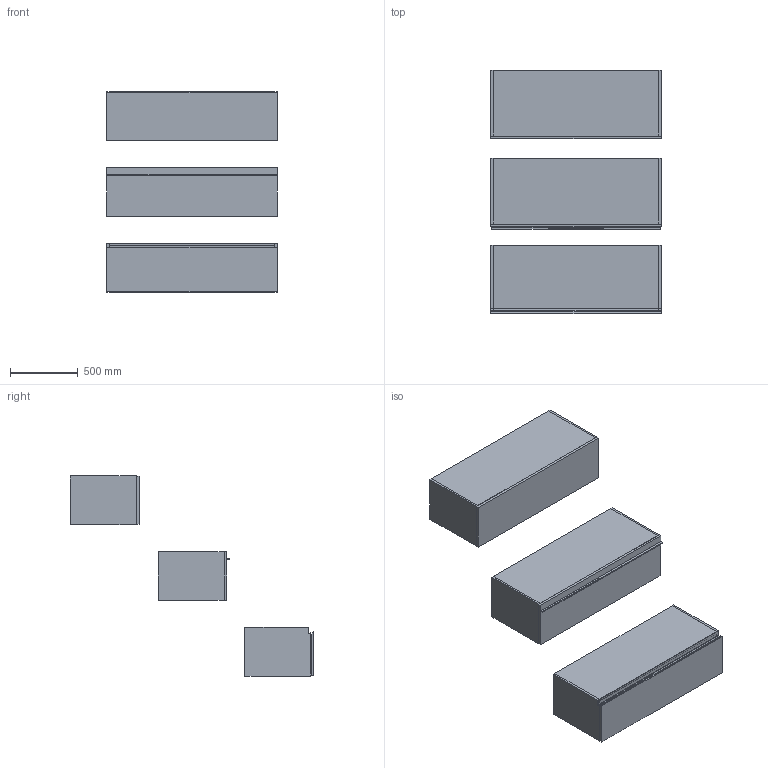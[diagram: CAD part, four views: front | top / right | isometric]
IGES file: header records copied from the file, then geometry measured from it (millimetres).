
Start section: Data from Parasolid IGES Translator 19.0.9, Copyright(c) 2006 Siemens PL M Software. All Rights Reserved.
Global section: file name: noorth-SI-H 36 D 51 W 126_8372.igs; native system: By Siemens PLM Incorporated; preprocessor: XPlus GENERIC/IGES 19.0.9; author: Noname; organization: Noname; date: 20200601.095632; units: metre
Bounding box: 1260.01 x 1799.15 x 1480 mm (x, y, z)
Volume: 102360774.9 mm3; surface area: 15181690.2 mm2
Topology: 20 solids, 20 shells, 178 faces, 382 edges, 234 vertices
Faces by surface type: plane 134, extrusion 16, bspline 16, cylinder 12
